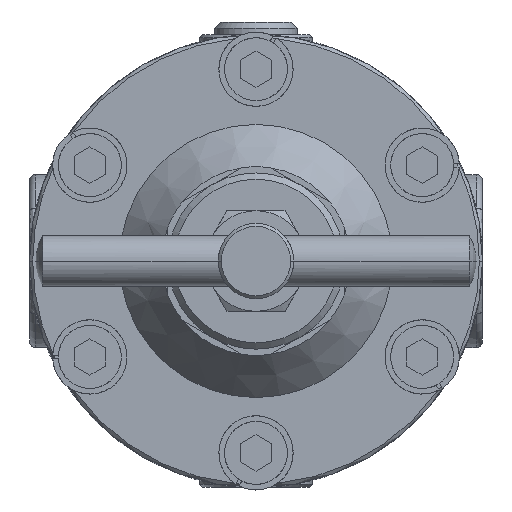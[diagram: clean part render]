
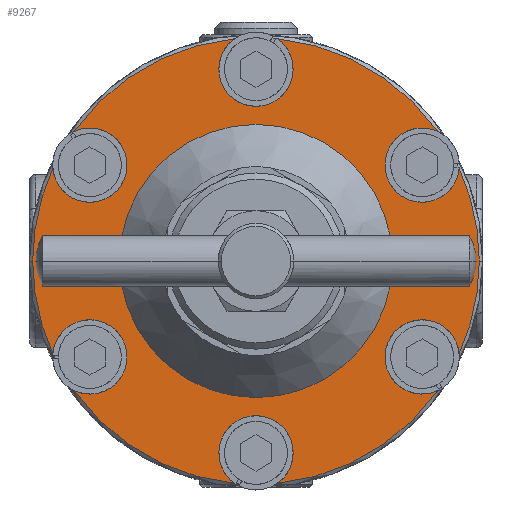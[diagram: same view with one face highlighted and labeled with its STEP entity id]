
A CAD part, front view. The second image highlights one B-rep face of the part: STEP entity #9267.
In plain terms, the highlighted planar face has unit normal (0, -1, 0).
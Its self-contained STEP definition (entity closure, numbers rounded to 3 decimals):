
#91=CARTESIAN_POINT('',(26.414,-35.555,-15.25));
#92=DIRECTION('',(0.,1.,0.));
#93=DIRECTION('',(0.424,0.,-0.906));
#94=AXIS2_PLACEMENT_3D('',#91,#92,#93);
#96=CARTESIAN_POINT('',(0.,-35.555,0.));
#97=DIRECTION('',(0.,-1.,0.));
#98=DIRECTION('',(0.095,0.,-0.995));
#99=AXIS2_PLACEMENT_3D('',#96,#97,#98);
#101=CARTESIAN_POINT('',(0.,-35.555,-30.5));
#102=DIRECTION('',(0.,1.,0.));
#103=DIRECTION('',(-0.572,0.,-0.82));
#104=AXIS2_PLACEMENT_3D('',#101,#102,#103);
#106=CARTESIAN_POINT('',(0.,-35.555,0.));
#107=DIRECTION('',(0.,-1.,0.));
#108=DIRECTION('',(-0.815,0.,-0.58));
#109=AXIS2_PLACEMENT_3D('',#106,#107,#108);
#111=CARTESIAN_POINT('',(-26.414,-35.555,-15.25));
#112=DIRECTION('',(0.,1.,0.));
#113=DIRECTION('',(-0.996,0.,0.085));
#114=AXIS2_PLACEMENT_3D('',#111,#112,#113);
#116=CARTESIAN_POINT('',(0.,-35.555,0.));
#117=DIRECTION('',(0.,-1.,0.));
#118=DIRECTION('',(-1.,0.,0.));
#119=AXIS2_PLACEMENT_3D('',#116,#117,#118);
#121=CARTESIAN_POINT('',(0.,-35.555,0.));
#122=DIRECTION('',(0.,-1.,0.));
#123=DIRECTION('',(-0.91,0.,0.415));
#124=AXIS2_PLACEMENT_3D('',#121,#122,#123);
#126=CARTESIAN_POINT('',(-26.414,-35.555,15.25));
#127=DIRECTION('',(0.,1.,0.));
#128=DIRECTION('',(-0.424,0.,0.906));
#129=AXIS2_PLACEMENT_3D('',#126,#127,#128);
#131=CARTESIAN_POINT('',(0.,-35.555,0.));
#132=DIRECTION('',(0.,-1.,0.));
#133=DIRECTION('',(-0.095,0.,0.995));
#134=AXIS2_PLACEMENT_3D('',#131,#132,#133);
#136=CARTESIAN_POINT('',(0.,-35.555,30.5));
#137=DIRECTION('',(0.,1.,0.));
#138=DIRECTION('',(0.572,0.,0.82));
#139=AXIS2_PLACEMENT_3D('',#136,#137,#138);
#141=CARTESIAN_POINT('',(0.,-35.555,0.));
#142=DIRECTION('',(0.,-1.,0.));
#143=DIRECTION('',(0.815,0.,0.58));
#144=AXIS2_PLACEMENT_3D('',#141,#142,#143);
#146=CARTESIAN_POINT('',(26.414,-35.555,15.25));
#147=DIRECTION('',(0.,1.,0.));
#148=DIRECTION('',(0.996,0.,-0.085));
#149=AXIS2_PLACEMENT_3D('',#146,#147,#148);
#151=CARTESIAN_POINT('',(0.,-35.555,0.));
#152=DIRECTION('',(0.,-1.,0.));
#153=DIRECTION('',(1.,0.,0.));
#154=AXIS2_PLACEMENT_3D('',#151,#152,#153);
#156=CARTESIAN_POINT('',(0.,-35.555,0.));
#157=DIRECTION('',(0.,-1.,0.));
#158=DIRECTION('',(0.91,0.,-0.415));
#159=AXIS2_PLACEMENT_3D('',#156,#157,#158);
#161=CARTESIAN_POINT('',(0.,-35.555,0.));
#162=DIRECTION('',(0.,1.,0.));
#163=DIRECTION('',(-1.,0.,0.));
#164=AXIS2_PLACEMENT_3D('',#161,#162,#163);
#166=CARTESIAN_POINT('',(0.,-35.555,0.));
#167=DIRECTION('',(0.,1.,0.));
#168=DIRECTION('',(1.,0.,0.));
#169=AXIS2_PLACEMENT_3D('',#166,#167,#168);
#8349=CARTESIAN_POINT('',(-35.5,-35.555,0.));
#8351=VERTEX_POINT('',#8349);
#8360=CARTESIAN_POINT('',(-21.713,-35.555,0.));
#8362=VERTEX_POINT('',#8360);
#8445=CARTESIAN_POINT('',(21.713,-35.555,0.));
#8446=VERTEX_POINT('',#8445);
#8494=CARTESIAN_POINT('',(35.5,-35.555,0.));
#8495=VERTEX_POINT('',#8494);
#8508=CARTESIAN_POINT('',(28.917,-35.555,20.593));
#8510=VERTEX_POINT('',#8508);
#8513=CARTESIAN_POINT('',(32.292,-35.555,14.747));
#8515=VERTEX_POINT('',#8513);
#8532=CARTESIAN_POINT('',(-3.375,-35.555,
35.339));
#8534=VERTEX_POINT('',#8532);
#8537=CARTESIAN_POINT('',(3.375,-35.555,35.339));
#8539=VERTEX_POINT('',#8537);
#8556=CARTESIAN_POINT('',(-32.292,-35.555,
14.747));
#8558=VERTEX_POINT('',#8556);
#8561=CARTESIAN_POINT('',(-28.917,-35.555,
20.593));
#8563=VERTEX_POINT('',#8561);
#8580=CARTESIAN_POINT('',(-32.292,-35.555,
-14.747));
#8581=CARTESIAN_POINT('',(-28.917,-35.555,
-20.593));
#8582=VERTEX_POINT('',#8580);
#8583=VERTEX_POINT('',#8581);
#8604=CARTESIAN_POINT('',(-3.375,-35.555,
-35.339));
#8605=CARTESIAN_POINT('',(3.375,-35.555,
-35.339));
#8606=VERTEX_POINT('',#8604);
#8607=VERTEX_POINT('',#8605);
#8628=CARTESIAN_POINT('',(28.917,-35.555,
-20.593));
#8629=CARTESIAN_POINT('',(32.292,-35.555,
-14.747));
#8630=VERTEX_POINT('',#8628);
#8631=VERTEX_POINT('',#8629);
#9227=CARTESIAN_POINT('',(-35.5,-35.555,0.));
#9228=DIRECTION('',(0.,-1.,0.));
#9229=DIRECTION('',(1.,0.,0.));
#9230=AXIS2_PLACEMENT_3D('',#9227,#9228,#9229);
#9231=PLANE('',#9230);
#9233=ORIENTED_EDGE('',*,*,#9232,.F.);
#9235=ORIENTED_EDGE('',*,*,#9234,.F.);
#9236=ORIENTED_EDGE('',*,*,#9214,.F.);
#9238=ORIENTED_EDGE('',*,*,#9237,.F.);
#9240=ORIENTED_EDGE('',*,*,#9239,.F.);
#9242=ORIENTED_EDGE('',*,*,#9241,.F.);
#9244=ORIENTED_EDGE('',*,*,#9243,.F.);
#9246=ORIENTED_EDGE('',*,*,#9245,.F.);
#9248=ORIENTED_EDGE('',*,*,#9247,.F.);
#9250=ORIENTED_EDGE('',*,*,#9249,.F.);
#9252=ORIENTED_EDGE('',*,*,#9251,.F.);
#9254=ORIENTED_EDGE('',*,*,#9253,.F.);
#9256=ORIENTED_EDGE('',*,*,#9255,.F.);
#9258=ORIENTED_EDGE('',*,*,#9257,.F.);
#9259=EDGE_LOOP('',(#9233,#9235,#9236,#9238,#9240,#9242,#9244,#9246,#9248,#9250,
#9252,#9254,#9256,#9258));
#9260=FACE_OUTER_BOUND('',#9259,.F.);
#9262=ORIENTED_EDGE('',*,*,#9261,.F.);
#9264=ORIENTED_EDGE('',*,*,#9263,.F.);
#9265=EDGE_LOOP('',(#9262,#9264));
#9266=FACE_BOUND('',#9265,.F.);
#9267=ADVANCED_FACE('',(#9260,#9266),#9231,.T.);
#95=CIRCLE('',#94,5.9);
#100=CIRCLE('',#99,35.5);
#105=CIRCLE('',#104,5.9);
#110=CIRCLE('',#109,35.5);
#115=CIRCLE('',#114,5.9);
#120=CIRCLE('',#119,35.5);
#125=CIRCLE('',#124,35.5);
#130=CIRCLE('',#129,5.9);
#135=CIRCLE('',#134,35.5);
#140=CIRCLE('',#139,5.9);
#145=CIRCLE('',#144,35.5);
#150=CIRCLE('',#149,5.9);
#155=CIRCLE('',#154,35.5);
#160=CIRCLE('',#159,35.5);
#165=CIRCLE('',#164,21.713);
#170=CIRCLE('',#169,21.713);
#9214=EDGE_CURVE('',#8606,#8607,#105,.T.);
#9232=EDGE_CURVE('',#8630,#8631,#95,.T.);
#9234=EDGE_CURVE('',#8607,#8630,#100,.T.);
#9237=EDGE_CURVE('',#8583,#8606,#110,.T.);
#9239=EDGE_CURVE('',#8582,#8583,#115,.T.);
#9241=EDGE_CURVE('',#8351,#8582,#120,.T.);
#9243=EDGE_CURVE('',#8558,#8351,#125,.T.);
#9245=EDGE_CURVE('',#8563,#8558,#130,.T.);
#9247=EDGE_CURVE('',#8534,#8563,#135,.T.);
#9249=EDGE_CURVE('',#8539,#8534,#140,.T.);
#9251=EDGE_CURVE('',#8510,#8539,#145,.T.);
#9253=EDGE_CURVE('',#8515,#8510,#150,.T.);
#9255=EDGE_CURVE('',#8495,#8515,#155,.T.);
#9257=EDGE_CURVE('',#8631,#8495,#160,.T.);
#9261=EDGE_CURVE('',#8362,#8446,#165,.T.);
#9263=EDGE_CURVE('',#8446,#8362,#170,.T.);
